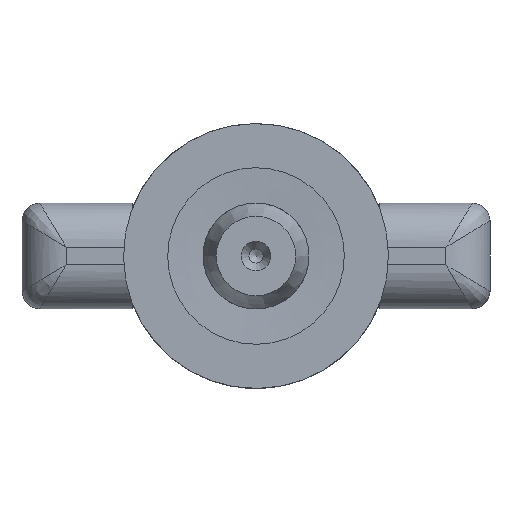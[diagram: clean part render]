
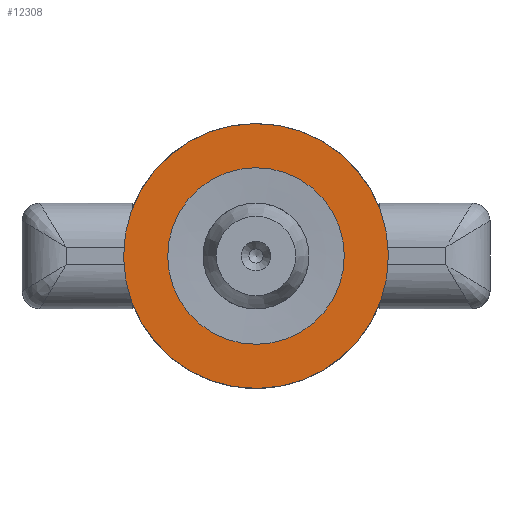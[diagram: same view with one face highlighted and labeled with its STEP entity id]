
A CAD part, front view. The second image highlights one B-rep face of the part: STEP entity #12308.
In plain terms, the highlighted planar face has unit normal (0, -1, 0) as drawn and (0, 0, -1) by its records, which use the part's own axes.
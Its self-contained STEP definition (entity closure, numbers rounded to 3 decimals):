
#322=FACE_BOUND('',#4592,.T.);
#669=PLANE('',#13211);
#3798=FACE_OUTER_BOUND('',#4591,.T.);
#4591=EDGE_LOOP('',(#11586));
#4592=EDGE_LOOP('',(#11587));
#4886=CIRCLE('',#13194,15.);
#4893=CIRCLE('',#13208,10.);
#6086=VERTEX_POINT('',#40632);
#6093=VERTEX_POINT('',#40653);
#7918=EDGE_CURVE('',#6086,#6086,#4886,.T.);
#7925=EDGE_CURVE('',#6093,#6093,#4893,.T.);
#11586=ORIENTED_EDGE('',*,*,#7918,.T.);
#11587=ORIENTED_EDGE('',*,*,#7925,.F.);
#12308=ADVANCED_FACE('',(#3798,#322),#669,.F.);
#13194=AXIS2_PLACEMENT_3D('',#40633,#15563,#15564);
#13208=AXIS2_PLACEMENT_3D('',#40654,#15591,#15592);
#13211=AXIS2_PLACEMENT_3D('',#40658,#15597,#15598);
#15563=DIRECTION('center_axis',(0.,0.,-1.));
#15564=DIRECTION('ref_axis',(-1.,0.,0.));
#15591=DIRECTION('center_axis',(0.,0.,-1.));
#15592=DIRECTION('ref_axis',(-1.,0.,0.));
#15597=DIRECTION('center_axis',(0.,0.,1.));
#15598=DIRECTION('ref_axis',(1.,0.,0.));
#40632=CARTESIAN_POINT('',(15.,0.,0.));
#40633=CARTESIAN_POINT('Origin',(0.,0.,0.));
#40653=CARTESIAN_POINT('',(10.,0.,0.));
#40654=CARTESIAN_POINT('Origin',(0.,0.,0.));
#40658=CARTESIAN_POINT('Origin',(0.,0.,0.));
